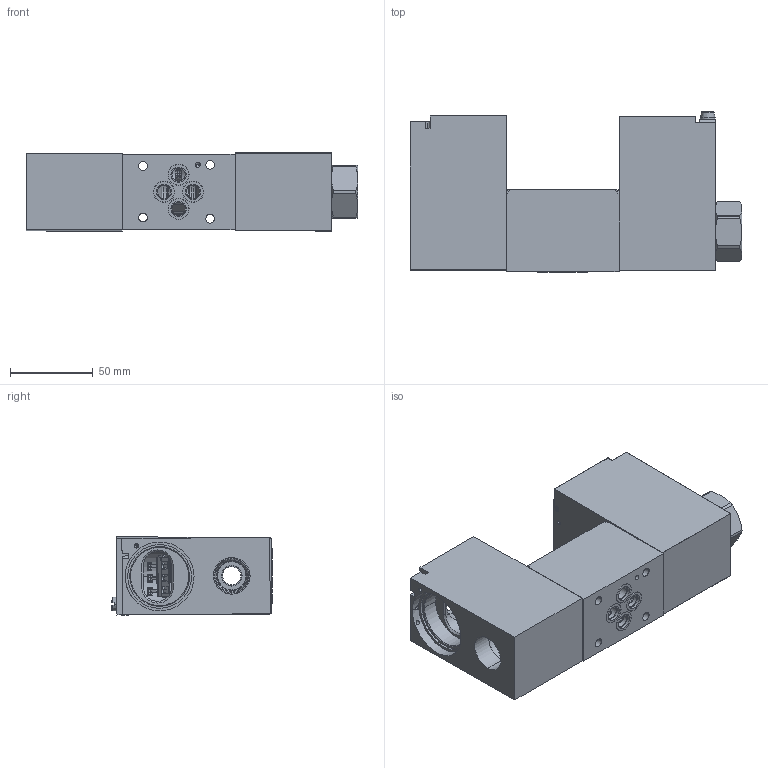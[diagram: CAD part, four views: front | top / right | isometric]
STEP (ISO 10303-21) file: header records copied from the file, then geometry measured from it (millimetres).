
FILE_DESCRIPTION((''),'2;1');
FILE_NAME('RPEX_NOVA_ASM_ASM','2023-10-03T',('l.soukupova'),(''),'PRO/ENGINEER BY PARAMETRIC TECHNOLOGY CORPORATION, 2015440','PRO/ENGINEER BY PARAMETRIC TECHNOLOGY CORPORATION, 2015440','');
FILE_SCHEMA(('AUTOMOTIVE_DESIGN { 1 0 10303 214 1 1 1 1 }'));
Products named in the file (26): NG6_B_22299401_1; PRT0009_1; ASM0003_ASM_1_ASM; ASM0002_ASM_1_ASM; ASM0005_ASM_1_ASM; ASM0004_ASM_1_ASM; ASM0007_ASM_1_ASM; ASM0006_ASM_1_ASM; PRT0001; RPEX_NOVA_ASM_1_ASM; 0002710-2-SOLID1; 0002710-3-SOLID1; 0000980-1-SOLID1; 0003649-1-SOLID1; 0000882-1-SOLID1; 0003186-1_0002485-1-SOLID1; 0003186-1_0002629-1-SOLID1; AUFSATZ-LINEAR_AUSTRAGEN1; ASM0001_ASM; EX18-001-D-1-A-012-0_ASM; 0002632; 0003195; 0003194; 0003196_C_0_ASM; 0003196_ASM; RPEX_NOVA_ASM_ASM
Assembly tree (32 placements, depth 5):
  RPEX_NOVA_ASM_ASM
    RPEX_NOVA_ASM_1_ASM
      NG6_B_22299401_1
      ASM0002_ASM_1_ASM  x2
        ASM0003_ASM_1_ASM
          PRT0009_1
      ASM0004_ASM_1_ASM  x3
        ASM0005_ASM_1_ASM
      ASM0006_ASM_1_ASM  x2
        ASM0007_ASM_1_ASM
      PRT0001  x4
    EX18-001-D-1-A-012-0_ASM
      ASM0001_ASM
        0002710-2-SOLID1
        0002710-3-SOLID1
        0000980-1-SOLID1
        0003649-1-SOLID1
        0000882-1-SOLID1
        0003186-1_0002485-1-SOLID1
        0003186-1_0002629-1-SOLID1
        AUFSATZ-LINEAR_AUSTRAGEN1
    0003196_ASM
      0003196_C_0_ASM
        0002632
        0003195
        0003194
Bounding box: 199.85 x 96.49 x 47.43 mm (x, y, z)
Volume: 639599.4 mm3; surface area: 150808.3 mm2
Topology: 18 solids, 20 shells, 1634 faces, 4730 edges, 3409 vertices
Faces by surface type: plane 785, cylinder 525, torus 106, cone 106, bspline 86, sphere 26
Entity records: 70807 total; most frequent: CARTESIAN_POINT 18027, DIRECTION 7601, ORIENTED_EDGE 7218, PRESENTATION_STYLE_ASSIGNMENT 4513, STYLED_ITEM 3830, CURVE_STYLE 3808, EDGE_CURVE 3613, AXIS2_PLACEMENT_3D 2844
